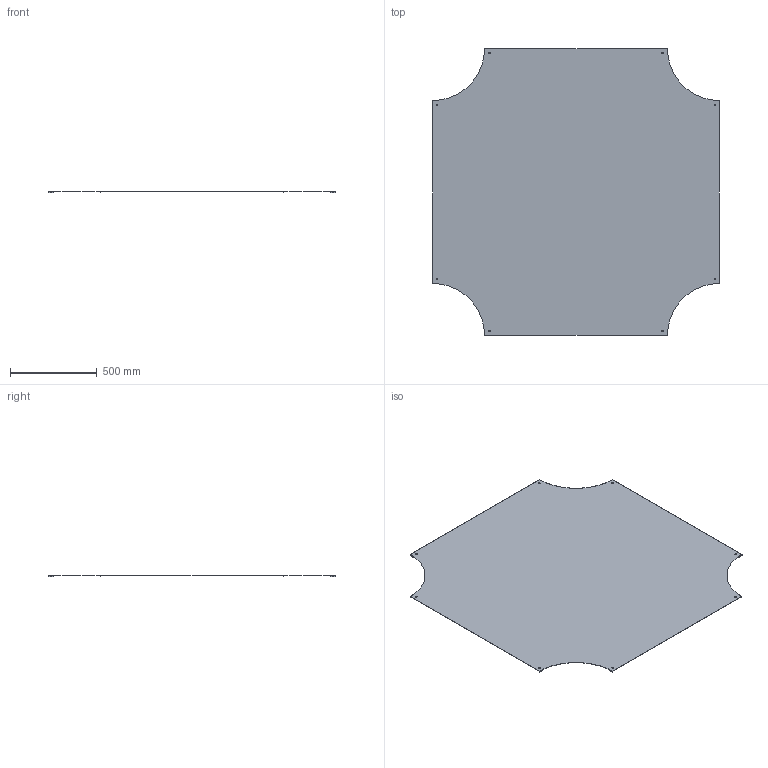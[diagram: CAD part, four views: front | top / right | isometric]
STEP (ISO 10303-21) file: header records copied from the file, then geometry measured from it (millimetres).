
FILE_DESCRIPTION(/* description */ ('','CAx-IF Rec.Pracs.---Representation and Presentation of Product Manufacturing Information (PMI)---4.0---2014-10-13'),/* implementation_level */ '2;1');
FILE_NAME(/* name */ 'Eurostrut_ECOC1000-300_Cover Crossover for Cable Ladder ECL.step',/* time_stamp */ '2026-09-10T10:50:52+02:00',/* author */ (''),/* organization */ (''),/* preprocessor_version */ 'ST-DEVELOPER v20.1',/* originating_system */ 'Autodesk Revit 2027 27.2.0.39',/* authorisation */ '');
FILE_SCHEMA (('AP242_MANAGED_MODEL_BASED_3D_ENGINEERING_MIM_LF { 1 0 10303 442 2 1 4 }'));
Length unit declared in the file: millimetre
Products named in the file (6): TopLevelAssembly; Joined Solid Geometry; Joined Solid Geometry_1; Joined Solid Geometry_2; Joined Solid Geometry_3; Joined Solid Geometry_4
Assembly tree (5 placements, depth 2):
  TopLevelAssembly
    Joined Solid Geometry
    Joined Solid Geometry_1
    Joined Solid Geometry_2
    Joined Solid Geometry_3
    Joined Solid Geometry_4
Bounding box: 1650 x 1650 x 9 mm (x, y, z)
Volume: 3665175.7 mm3; surface area: 4897190.2 mm2
Topology: 9 solids, 9 shells, 74 faces, 168 edges, 112 vertices
Faces by surface type: plane 38, cylinder 36
Entity records: 2242 total; most frequent: DIRECTION 410, CARTESIAN_POINT 365, ORIENTED_EDGE 336, EDGE_CURVE 168, AXIS2_PLACEMENT_3D 157, VERTEX_POINT 112, LINE 96, VECTOR 96
